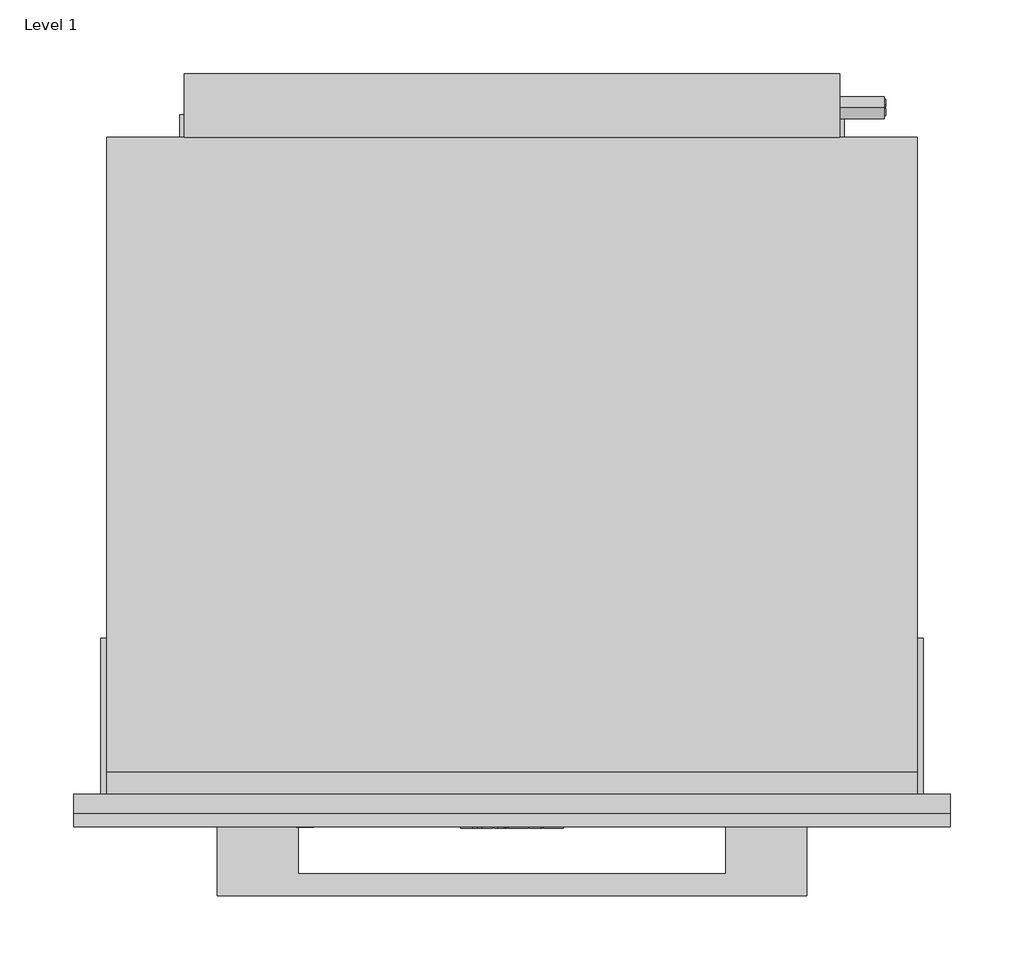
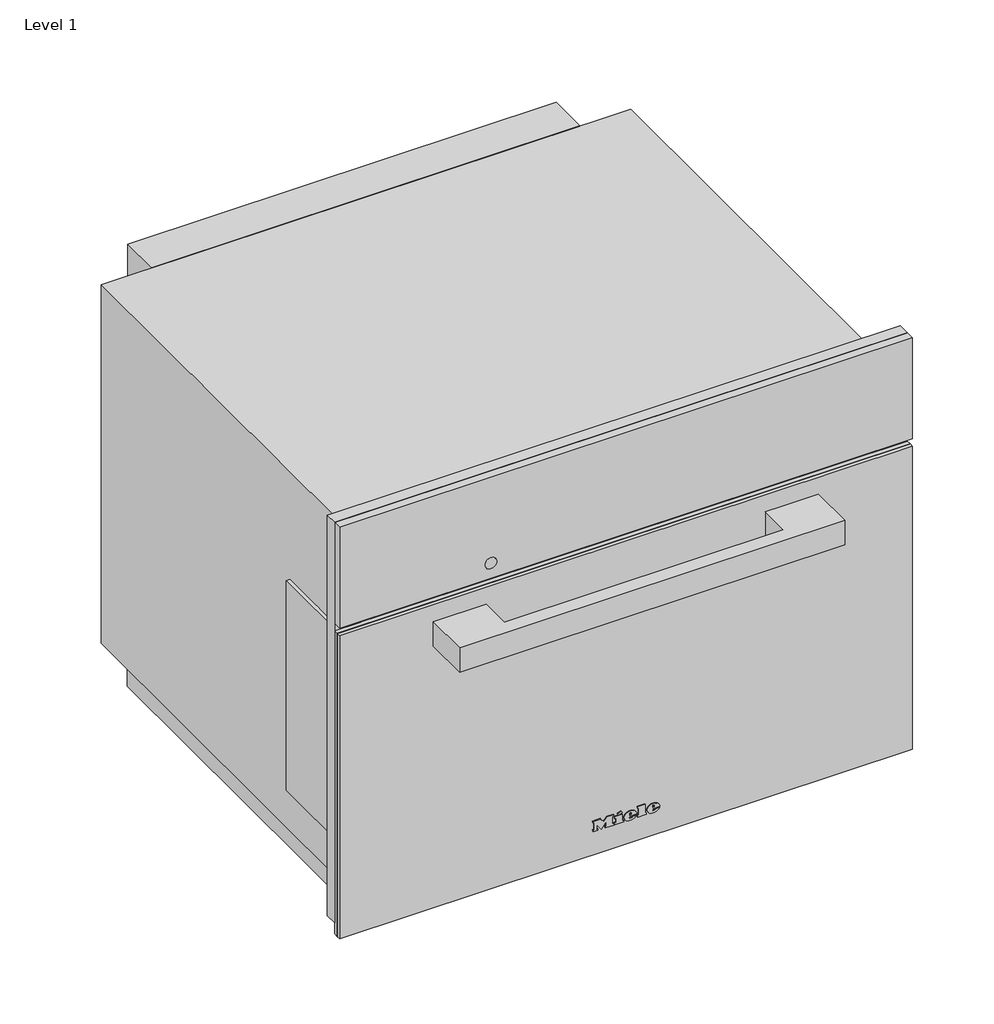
# One storey: 1 proxy.
"""IFC4 building model written with IfcOpenShell, lengths in millimetres."""

from ifc_helpers import new_model, si_unit, origin, place, context, project, spatial, transform, mapped, element, save
from components import specialty_equipment_be753a0b

model = new_model("IFC4")

# Units and contexts
model_context = context("Model", 3, world=origin())
ifc_project = project(units=[si_unit("LENGTHUNIT", "METRE", prefix="MILLI")], contexts=[model_context])

# Site, building, storey
site = spatial("IfcSite", under=ifc_project)
building = spatial("IfcBuilding", under=site)
storey = spatial("IfcBuildingStorey", under=building, Name="Level 1", Elevation=0.0)

# Proxy
placement = place(None, origin())
specialty_equipment_shape = specialty_equipment_be753a0b(model_context)
element("IfcBuildingElementProxy", 1, Name="11103660_D_M7244TC_GRGR : 24724430_D_11103660_M7244TC_GRGR", ObjectType="11103660_D_M7244TC_GRGR : 24724430_D_11103660_M7244TC_GRGR", at=placement, inside=storey, context=model_context, shape_type="MappedRepresentation", body=[
    mapped(specialty_equipment_shape, transform((0.0, 0.0, 0.0), x_axis=(1.0, 0.0, 0.0), y_axis=(0.0, 1.0, 0.0), z_axis=(0.0, 0.0, 1.0))),
])

save(model, "model.ifc")
